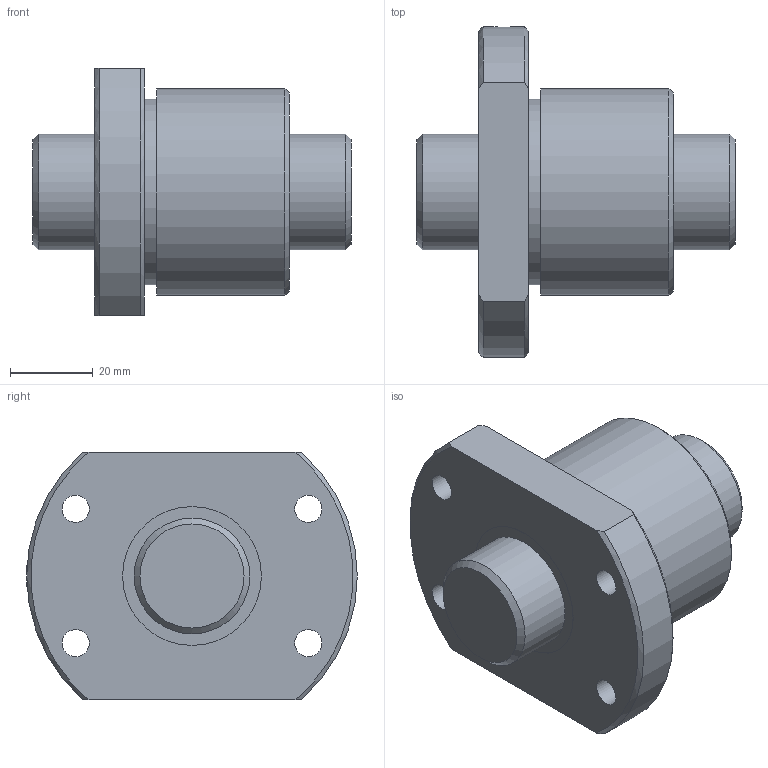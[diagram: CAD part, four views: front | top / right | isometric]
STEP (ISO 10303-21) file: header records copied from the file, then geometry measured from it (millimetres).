
FILE_DESCRIPTION(/* description */ ('STEP AP203'),/* implementation_level */ '2;1');
FILE_NAME(/* name */ 'BTK2806V-2.6ZZ+77LC7T_000',/* time_stamp */ '2025-01-16T07:57:33+01:00',/* author */ ('License CC BY-ND 4.0'),/* organization */ ('CADENAS'),/* preprocessor_version */ 'ST-DEVELOPER v19.3',/* originating_system */ 'PARTsolutions',/* authorisation */ ' ');
FILE_SCHEMA (('CONFIG_CONTROL_DESIGN'));
Length unit declared in the file: millimetre
Products named in the file (3): BTK2806V-2.6ZZ+77LC7T_000; BTK 2806V-2.600 Shaft; BTK 2806V-2.6ZZ Nut
Assembly tree (2 placements, depth 2):
  BTK2806V-2.6ZZ+77LC7T_000
    BTK 2806V-2.600 Shaft
    BTK 2806V-2.6ZZ Nut
Bounding box: 77 x 80 x 60 mm (x, y, z)
Volume: 135144.9 mm3; surface area: 29281.5 mm2
Topology: 2 solids, 2 shells, 31 faces, 66 edges, 43 vertices
Faces by surface type: cylinder 13, plane 10, cone 8
Full cylindrical faces by diameter (mm): 4.917 x1, 6.6 x4, 28 x2, 33.6 x2, 45 x1, 50 x1
Entity records: 887 total; most frequent: CARTESIAN_POINT 170, DIRECTION 140, ORIENTED_EDGE 100, AXIS2_PLACEMENT_3D 66, EDGE_LOOP 62, FACE_BOUND 62, EDGE_CURVE 50, VERTEX_POINT 42
